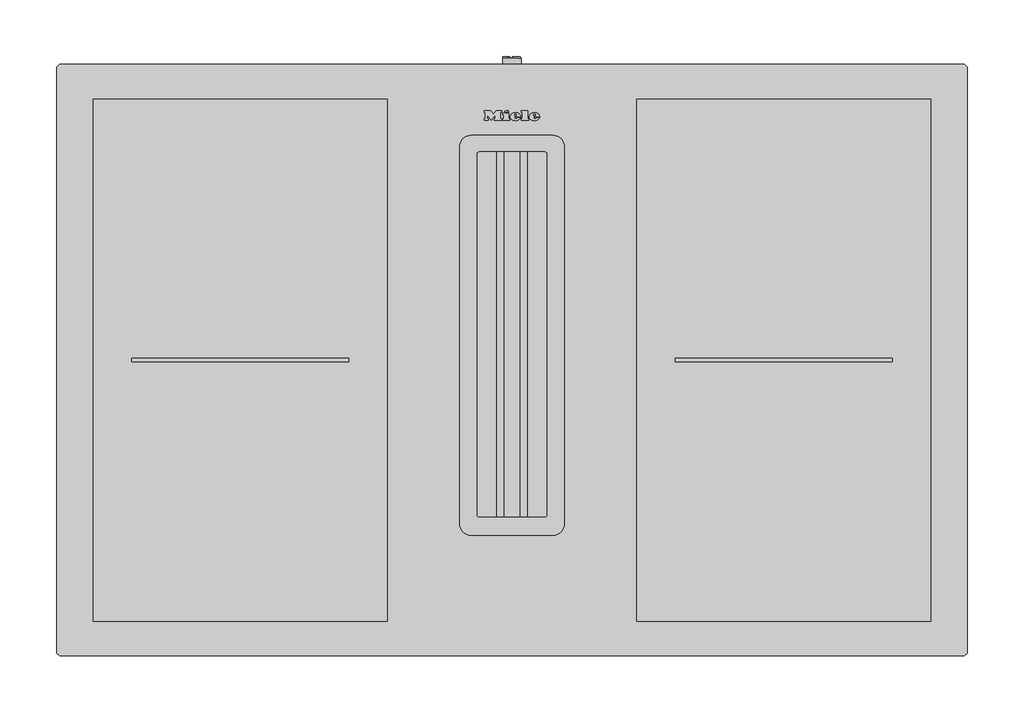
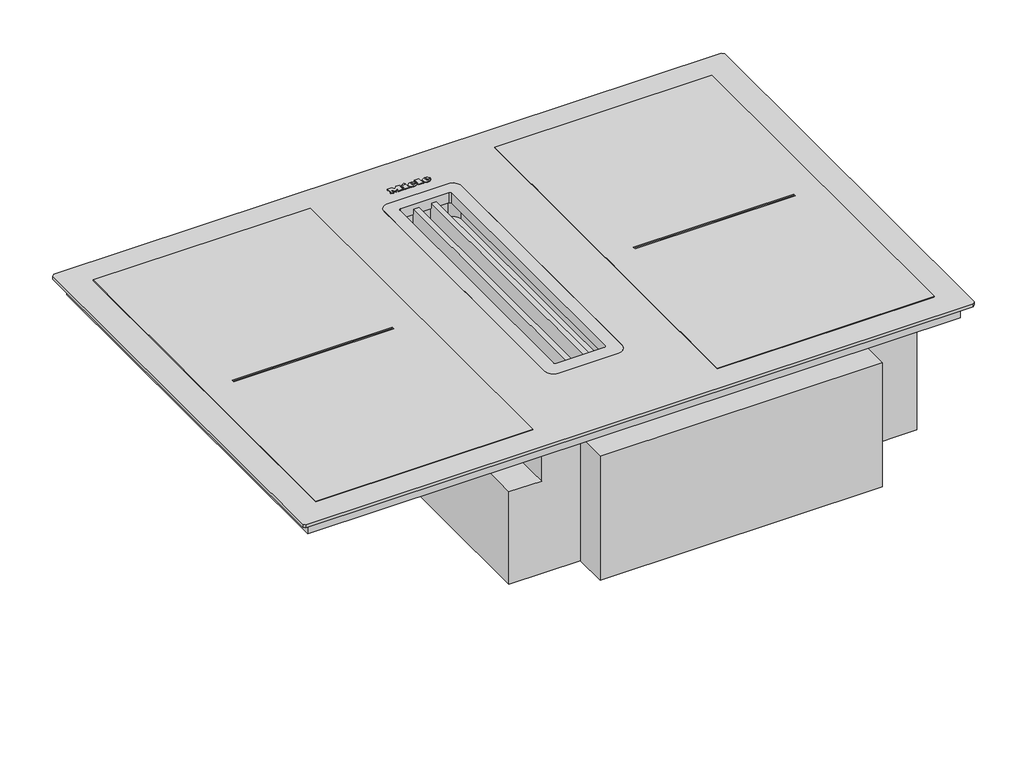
# Not in any storey: 1 proxy.
"""IFC4 building model written with IfcOpenShell, lengths in millimetres."""

import ifcopenshell
import ifcopenshell.guid

model = None  # the IFC model being written
_history = None  # IfcOwnerHistory: only IFC2X3 demands one
_inside = {}  # id of a spatial element -> (the spatial element, [elements in it])
_under = {}  # id of a project, library or spatial element -> (it, [spatial elements below it])
_declared = {}  # id of a project -> (the project, [libraries it declares])
_typed = {}  # id of a type object -> (the type object, [elements of that type])
_made_of = {}  # id of a material, layer set ... -> (it, [elements and type objects made of it])


def new_model(schema):
    """Start an empty IFC model of exactly this schema.

    Asked for "IFC4X3", IfcOpenShell would pick the latest addendum, in which some entities
    have other attributes; the version numbers below select the first issue.
    IFC2X3 requires an IfcOwnerHistory on every rooted entity: one is made here for all.
    """
    global model, _history
    if schema == "IFC4X3":
        model = ifcopenshell.file(schema_version=(4, 3, 0, 0))
    else:
        model = ifcopenshell.file(schema=schema)
    _inside.clear()
    _under.clear()
    _declared.clear()
    _typed.clear()
    _made_of.clear()
    _history = None
    if model.schema == "IFC2X3":
        org = make("IfcOrganization", Name="unknown")
        user = make(
            "IfcPersonAndOrganization",
            ThePerson=make("IfcPerson", FamilyName="unknown"),
            TheOrganization=org,
        )
        app = make(
            "IfcApplication",
            ApplicationDeveloper=org,
            Version="unknown",
            ApplicationFullName="unknown",
            ApplicationIdentifier="unknown",
        )
        _history = make(
            "IfcOwnerHistory",
            OwningUser=user,
            OwningApplication=app,
            ChangeAction="ADDED",
            CreationDate=0,
        )
    return model


def make(cls, **values):
    """One entity of the class cls with the attributes given. An attribute that is None is left unset."""
    return model.create_entity(
        cls, **{name: value for name, value in values.items() if value is not None}
    )


def rooted(cls, **values):
    """An entity with a GlobalId (a new one), such as an element, a storey or a relation."""
    return make(cls, GlobalId=ifcopenshell.guid.new(), OwnerHistory=_history, **values)


def si_unit(unit_type, name, prefix=None):
    """IfcSIUnit, for example si_unit("LENGTHUNIT", "METRE", prefix="MILLI")."""
    return make("IfcSIUnit", UnitType=unit_type, Prefix=prefix, Name=name)


def assignment(units):
    """IfcUnitAssignment: the units of a project."""
    return None if units is None else make("IfcUnitAssignment", Units=units)


def point(xyz):
    """IfcCartesianPoint."""
    return None if xyz is None else make("IfcCartesianPoint", Coordinates=xyz)


def direction(xyz):
    """IfcDirection."""
    return None if xyz is None else make("IfcDirection", DirectionRatios=xyz)


def frame(location, z_axis=None, x_axis=None):
    """IfcAxis2Placement3D, a coordinate frame: its origin and axes. An axis left out is left unset."""
    return make(
        "IfcAxis2Placement3D",
        Location=point(location),
        Axis=direction(z_axis),
        RefDirection=direction(x_axis),
    )


def frame_2d(location, x_axis=None):
    """IfcAxis2Placement2D, a coordinate frame in the plane: its origin and x axis."""
    return make(
        "IfcAxis2Placement2D", Location=point(location), RefDirection=direction(x_axis)
    )


def origin():
    """The frame at (0, 0, 0) with its axes left unset."""
    return frame((0.0, 0.0, 0.0))


def origin_with_axes():
    """The frame at (0, 0, 0) with the z axis (0, 0, 1) and the x axis (1, 0, 0) written out."""
    return frame((0.0, 0.0, 0.0), z_axis=(0.0, 0.0, 1.0), x_axis=(1.0, 0.0, 0.0))


def place(relative_to, where):
    """IfcLocalPlacement: puts the frame where relative to a parent placement (None: the world)."""
    return make(
        "IfcLocalPlacement", PlacementRelTo=relative_to, RelativePlacement=where
    )


def context(
    kind, dimensions, precision=None, world=None, true_north=None, identifier=None
):
    """IfcGeometricRepresentationContext, for example the 3D "Model" context."""
    return make(
        "IfcGeometricRepresentationContext",
        ContextIdentifier=identifier,
        ContextType=kind,
        CoordinateSpaceDimension=dimensions,
        Precision=precision,
        WorldCoordinateSystem=world,
        TrueNorth=true_north,
    )


def project(units=None, contexts=None):
    """IfcProject with its units and contexts."""
    return rooted(
        "IfcProject",
        Name="project",
        RepresentationContexts=contexts,
        UnitsInContext=assignment(units),
    )


def spatial(cls, under=None, at=None, **own):
    """A site, building, storey or space (cls), placed at a placement, below another one or the project."""
    s = rooted(cls, ObjectPlacement=at, **own)
    if under is not None:
        _under.setdefault(under.id(), (under, []))[1].append(s)
    return s


def polyline(points):
    """IfcPolyline through the points."""
    return make("IfcPolyline", Points=[point(p) for p in points])


def circle_curve(where, radius):
    """IfcCircle in the frame where."""
    return make("IfcCircle", Position=where, Radius=radius)


def ellipse_curve(where, semi_axis1, semi_axis2):
    """IfcEllipse in the frame where."""
    return make(
        "IfcEllipse", Position=where, SemiAxis1=semi_axis1, SemiAxis2=semi_axis2
    )


def trimmed(basis, trim1, trim2, sense, master):
    """IfcTrimmedCurve: the piece of a basis curve between two trims."""
    return make(
        "IfcTrimmedCurve",
        BasisCurve=basis,
        Trim1=trim1,
        Trim2=trim2,
        SenseAgreement=sense,
        MasterRepresentation=master,
    )


def segment(curve, same_sense, transition):
    """IfcCompositeCurveSegment."""
    return make(
        "IfcCompositeCurveSegment",
        Transition=transition,
        SameSense=same_sense,
        ParentCurve=curve,
    )


def composite_curve(segments, self_intersect=None):
    """IfcCompositeCurve: segments joined end to end."""
    return make("IfcCompositeCurve", Segments=segments, SelfIntersect=self_intersect)


def outline(outer, holes=None, kind="AREA"):
    """IfcArbitraryClosedProfileDef: a profile drawn as a closed curve; with holes, ...WithVoids."""
    if holes is None:
        return make("IfcArbitraryClosedProfileDef", ProfileType=kind, OuterCurve=outer)
    return make(
        "IfcArbitraryProfileDefWithVoids",
        ProfileType=kind,
        OuterCurve=outer,
        InnerCurves=holes,
    )


def extrude(swept, where, along, depth):
    """IfcExtrudedAreaSolid: the profile swept, set in the frame where, extruded along a direction by depth."""
    return make(
        "IfcExtrudedAreaSolid",
        SweptArea=swept,
        Position=where,
        ExtrudedDirection=direction(along),
        Depth=depth,
    )


def shape(context_of_items, identifier, shape_type, items):
    """IfcShapeRepresentation: the items that make up one representation, for example the "Body"."""
    return make(
        "IfcShapeRepresentation",
        ContextOfItems=context_of_items,
        RepresentationIdentifier=identifier,
        RepresentationType=shape_type,
        Items=items,
    )


def source(mapping_origin, context_of_items, identifier, shape_type, items):
    """IfcRepresentationMap: a shape defined once, which mapped items show again and again."""
    return make(
        "IfcRepresentationMap",
        MappingOrigin=mapping_origin,
        MappedRepresentation=shape(context_of_items, identifier, shape_type, items),
    )


def transform(
    local_origin,
    x_axis=None,
    y_axis=None,
    z_axis=None,
    scale=None,
    scale2=None,
    scale3=None,
    uniform=True,
):
    """IfcCartesianTransformationOperator3D, or its non-uniform kind. x_axis, y_axis, z_axis: its Axis1, 2, 3."""
    if uniform:
        return make(
            "IfcCartesianTransformationOperator3D",
            Axis1=direction(x_axis),
            Axis2=direction(y_axis),
            LocalOrigin=point(local_origin),
            Scale=scale,
            Axis3=direction(z_axis),
        )
    return make(
        "IfcCartesianTransformationOperator3DnonUniform",
        Axis1=direction(x_axis),
        Axis2=direction(y_axis),
        LocalOrigin=point(local_origin),
        Scale=scale,
        Axis3=direction(z_axis),
        Scale2=scale2,
        Scale3=scale3,
    )


def mapped(mapping_source, mapping_target):
    """IfcMappedItem: shows the shape of a source again, moved by a transform."""
    return make(
        "IfcMappedItem", MappingSource=mapping_source, MappingTarget=mapping_target
    )


def made_of(thing, what):
    """Note that an element or type object is made of a material, layer set ...; save() writes the relation."""
    if what is not None:
        _made_of.setdefault(what.id(), (what, []))[1].append(thing)
    return thing


def element(
    cls,
    number,
    at=None,
    inside=None,
    cuts=None,
    type_object=None,
    material=None,
    context=None,
    identifier="Body",
    shape_type=None,
    held_by="IfcProductDefinitionShape",
    body=None,
    shapes=None,
    **own,
):
    """One element of the class cls, such as IfcWall. Its Tag is "e" and its number.

    at: its placement. inside: the storey or other place that contains it. cuts: it is an
    opening in that element (IfcRelVoidsElement). A single representation is given by context,
    identifier, shape_type and body (its items); several are given by shapes. held_by: the class
    of the entity that holds the representations. save() writes the other relations.
    """
    e = rooted(cls, Tag="e%d" % number, ObjectPlacement=at, **own)
    if body is not None:
        shapes = [shape(context, identifier, shape_type, body)]
    if shapes is not None:
        e.Representation = make(held_by, Representations=shapes)
    if inside is not None:
        _inside.setdefault(inside.id(), (inside, []))[1].append(e)
    if cuts is not None:
        rooted(
            "IfcRelVoidsElement", RelatingBuildingElement=cuts, RelatedOpeningElement=e
        )
    if type_object is not None:
        _typed.setdefault(type_object.id(), (type_object, []))[1].append(e)
    return made_of(e, material)


def aggregate(whole, parts):
    """IfcRelAggregates: a whole, such as a stair, and the parts it consists of."""
    return rooted("IfcRelAggregates", RelatingObject=whole, RelatedObjects=parts)


def save(model, path):
    """Write the relations noted so far, then the file.

    IfcRelAggregates (storeys below a building ...), IfcRelContainedInSpatialStructure (elements
    in a storey), IfcRelDefinesByType, IfcRelAssociatesMaterial and IfcRelDeclares: one each for
    every whole, place, type object, material and project.
    """
    for whole, parts in _under.values():
        aggregate(whole, parts)
    for where, things in _inside.values():
        rooted(
            "IfcRelContainedInSpatialStructure",
            RelatedElements=things,
            RelatingStructure=where,
        )
    for kind, things in _typed.values():
        rooted("IfcRelDefinesByType", RelatedObjects=things, RelatingType=kind)
    for what, things in _made_of.values():
        rooted("IfcRelAssociatesMaterial", RelatedObjects=things, RelatingMaterial=what)
    for by, libraries in _declared.values():
        rooted("IfcRelDeclares", RelatingContext=by, RelatedDefinitions=libraries)
    model.write(path)


def plane_surface(at):
    """IfcPlane: the flat surface through the origin of the frame at, square to its z axis."""
    return make("IfcPlane", Position=at)


def cylinder_surface(at, radius):
    """IfcCylindricalSurface: all points at the distance radius from the z axis of the frame at."""
    return make("IfcCylindricalSurface", Position=at, Radius=radius)


def revolved_surface(curve, axis_point, axis_direction):
    """IfcSurfaceOfRevolution: the curve turned about the line through axis_point along axis_direction."""
    return make(
        "IfcSurfaceOfRevolution",
        SweptCurve=make("IfcArbitraryOpenProfileDef", ProfileType="CURVE", Curve=curve),
        AxisPosition=make("IfcAxis1Placement", Location=point(axis_point), Axis=direction(axis_direction)),
    )


def extruded_surface(curve, direction_of_extrusion, depth):
    """IfcSurfaceOfLinearExtrusion: the curve pushed along a direction by depth."""
    return make(
        "IfcSurfaceOfLinearExtrusion",
        SweptCurve=make("IfcArbitraryOpenProfileDef", ProfileType="CURVE", Curve=curve),
        ExtrudedDirection=direction(direction_of_extrusion),
        Depth=depth,
    )


def advanced_brep(points, edges, surfaces, faces):
    """IfcAdvancedBrep: a solid bounded by faces that lie on surfaces and meet in shared edges.

    An edge is (start, end): straight between two places in points (the first is 0);
    or (start, end, curve); or (start, end, curve, False) where it runs against its curve.
    A face is (place in surfaces, loops), or (place, loops, False) where it looks against
    its surface's normal. A loop lists edges by number (the first is 1), with a minus sign
    where the edge is run from its end to its start. The first loop is the outer one.
    """
    corners = [point(p) for p in points]
    vertices = [make("IfcVertexPoint", VertexGeometry=c) for c in corners]
    made = []
    for start, end, *more in edges:
        made.append(
            make(
                "IfcEdgeCurve",
                EdgeStart=vertices[start],
                EdgeEnd=vertices[end],
                EdgeGeometry=more[0] if more else make("IfcPolyline", Points=[corners[start], corners[end]]),
                SameSense=more[1] if len(more) > 1 else True,
            )
        )
    hull = []
    for where, loops, *sense in faces:
        bounds = []
        for j, loop in enumerate(loops):
            ring = [make("IfcOrientedEdge", EdgeElement=made[abs(k) - 1], Orientation=k > 0) for k in loop]
            bounds.append(
                make(
                    "IfcFaceOuterBound" if j == 0 else "IfcFaceBound",
                    Bound=make("IfcEdgeLoop", EdgeList=ring),
                    Orientation=True,
                )
            )
        hull.append(make("IfcAdvancedFace", Bounds=bounds, FaceSurface=surfaces[where], SameSense=sense[0] if sense else True))
    return make("IfcAdvancedBrep", Outer=make("IfcClosedShell", CfsFaces=hull))


def specialty_equipment_d1ee9a21(model_context):
    return source(origin(), model_context, "Body", "SolidModel", [
        advanced_brep(
        [(19.088016, 472.896, 5.0), (19.088016, 473.704, 5.0), (24.440016, 473.704, 5.0), (15.128016, 473.704, 5.0), (17.328016, 471.0, 5.0), (24.304016, 472.896, 5.0), (21.888016, 472.896, 5.0), (19.984016, 472.0, 5.0), (19.088016, 474.728, 5.0), (19.088016, 475.6, 5.0), (20.456016, 475.6, 5.0), (20.456016, 474.728, 5.0), (19.088016, 472.896, 4.0), (19.984016, 472.0, 4.0), (21.888016, 472.896, 4.0), (24.304016, 472.896, 4.0), (17.328016, 471.0, 4.0), (15.128016, 473.704, 4.0), (24.440016, 473.704, 4.0), (19.088016, 473.704, 4.0), (19.088016, 474.728, 4.0), (20.456016, 474.728, 4.0), (20.456016, 475.6, 4.0), (19.088016, 475.6, 4.0)],
        [
            (0, 1),
            (1, 2),
            (2, 3, ellipse_curve(frame((19.784016, 473.704, 5.0), z_axis=(0.0, 0.0, 1.0), x_axis=(-1.0, 0.0, 0.0)), 4.656, 3.848)),
            (3, 4, circle_curve(frame((18.2240596, 473.976, 5.0), z_axis=(0.0, 0.0, 1.0), x_axis=(0.0, -1.0, 0.0)), 3.1079688)),
            (4, 5, circle_curve(frame((19.6908096, 476.088, 5.0), z_axis=(0.0, 0.0, 1.0), x_axis=(0.0, -1.0, 0.0)), 5.6098607)),
            (5, 6),
            (6, 7, circle_curve(frame((20.3750748, 473.64, 5.0), z_axis=(0.0, 0.0, -1.0), x_axis=(0.0, -1.0, 0.0)), 1.6859795)),
            (7, 0, circle_curve(frame((19.984016, 472.896, 5.0), z_axis=(0.0, 0.0, -1.0), x_axis=(0.0, -1.0, 0.0)), 0.896)),
            (8, 9),
            (9, 10, circle_curve(frame((19.772016, 475.6, 5.0), z_axis=(0.0, 0.0, -1.0), x_axis=(0.0, -1.0, 0.0)), 0.684)),
            (10, 11),
            (11, 8),
            (12, 13, circle_curve(frame((19.984016, 472.896, 4.0), z_axis=(0.0, 0.0, 1.0), x_axis=(0.0, -1.0, 0.0)), 0.896)),
            (13, 14, circle_curve(frame((20.3750748, 473.64, 4.0), z_axis=(0.0, 0.0, 1.0), x_axis=(0.0, -1.0, 0.0)), 1.6859795)),
            (14, 15),
            (15, 16, circle_curve(frame((19.6908096, 476.088, 4.0), z_axis=(0.0, 0.0, -1.0), x_axis=(0.0, -1.0, 0.0)), 5.6098607)),
            (16, 17, circle_curve(frame((18.2240596, 473.976, 4.0), z_axis=(0.0, 0.0, -1.0), x_axis=(0.0, -1.0, 0.0)), 3.1079688)),
            (17, 18, ellipse_curve(frame((19.784016, 473.704, 4.0), z_axis=(0.0, 0.0, -1.0), x_axis=(-1.0, 0.0, 0.0)), 4.656, 3.848)),
            (18, 19),
            (19, 12),
            (20, 21),
            (21, 22),
            (22, 23, circle_curve(frame((19.772016, 475.6, 4.0), z_axis=(0.0, 0.0, 1.0), x_axis=(0.0, -1.0, 0.0)), 0.684)),
            (23, 20),
            (0, 12),
            (19, 1),
            (18, 2),
            (5, 15),
            (14, 6),
            (17, 3),
            (13, 7),
            (16, 4),
            (8, 20),
            (23, 9),
            (22, 10),
            (21, 11),
        ],
        [
            plane_surface(frame((19.088016, 473.704, 5.0), z_axis=(0.0, 0.0, 1.0), x_axis=(0.0, 1.0, 0.0))),
            plane_surface(frame((19.088016, 473.704, 4.0), z_axis=(0.0, 0.0, -1.0), x_axis=(0.0, -1.0, 0.0))),
            plane_surface(frame((19.088016, 472.896, 5.0), z_axis=(1.0, 0.0, 0.0), x_axis=(0.0, 0.0, -1.0))),
            plane_surface(frame((19.088016, 473.704, 5.0), z_axis=(0.0, -1.0, 0.0), x_axis=(0.0, 0.0, -1.0))),
            plane_surface(frame((24.304016, 472.896, 5.0), z_axis=(0.0, 1.0, 0.0), x_axis=(0.0, 0.0, -1.0))),
            extruded_surface(trimmed(ellipse_curve(frame((19.784016, 473.704, 3.0), z_axis=(0.0, 0.0, 1.0), x_axis=(-1.0, 0.0, 0.0)), 4.656, 3.848), [point((24.440016, 473.704, 3.0))], [point((15.128016, 473.704, 3.0))], True, "CARTESIAN"), (0.0, 0.0, 1.0), 1.0),
            revolved_surface(polyline([(20.3750748, 471.9540205, 4.0), (20.3750748, 471.9540205, 5.0)]), (20.3750748, 473.64, 4.0), (0.0, 0.0, -1.0)),
            revolved_surface(polyline([(19.984016, 472.0, 4.0), (19.984016, 472.0, 5.0)]), (19.984016, 472.896, 4.0), (0.0, 0.0, -1.0)),
            cylinder_surface(frame((18.2240596, 473.976, 4.0), z_axis=(0.0, 0.0, 1.0), x_axis=(0.0, -1.0, 0.0)), 3.1079688),
            cylinder_surface(frame((19.6908096, 476.088, 4.0), z_axis=(0.0, 0.0, 1.0), x_axis=(0.0, -1.0, 0.0)), 5.6098607),
            plane_surface(frame((19.088016, 474.728, 5.0), z_axis=(1.0, 0.0, 0.0), x_axis=(0.0, 0.0, -1.0))),
            revolved_surface(polyline([(19.772016, 474.916, 4.0), (19.772016, 474.916, 5.0)]), (19.772016, 475.6, 4.0), (0.0, 0.0, -1.0)),
            plane_surface(frame((20.456016, 475.6, 5.0), z_axis=(-1.0, 0.0, 0.0), x_axis=(0.0, 0.0, -1.0))),
            plane_surface(frame((20.456016, 474.728, 5.0), z_axis=(0.0, 1.0, 0.0), x_axis=(0.0, 0.0, -1.0))),
        ],
        [
            (0, [[1, 2, 3, 4, 5, 6, 7, 8], [9, 10, 11, 12]]),
            (1, [[13, 14, 15, 16, 17, 18, 19, 20], [21, 22, 23, 24]]),
            (2, [[-1, 25, -20, 26]]),
            (3, [[-2, -26, -19, 27]]),
            (4, [[-6, 28, -15, 29]]),
            (5, [[-3, -27, -18, 30]]),
            (6, [[-7, -29, -14, 31]]),
            (7, [[-8, -31, -13, -25]]),
            (8, [[-4, -30, -17, 32]]),
            (9, [[-5, -32, -16, -28]]),
            (10, [[-9, 33, -24, 34]]),
            (11, [[-10, -34, -23, 35]]),
            (12, [[-11, -35, -22, 36]]),
            (13, [[-12, -36, -21, -33]]),
        ],
    ),
        advanced_brep(
        [(2.392016, 472.896, 5.0), (2.392016, 473.704, 5.0), (7.744016, 473.704, 5.0), (-1.567984, 473.704, 5.0), (0.632016, 471.0, 5.0), (7.608016, 472.896, 5.0), (5.192016, 472.896, 5.0), (3.288016, 472.0, 5.0), (2.392016, 474.728, 5.0), (2.392016, 475.6, 5.0), (3.760016, 475.6, 5.0), (3.760016, 474.728, 5.0), (2.392016, 472.896, 4.0), (3.288016, 472.0, 4.0), (5.192016, 472.896, 4.0), (7.608016, 472.896, 4.0), (0.632016, 471.0, 4.0), (-1.567984, 473.704, 4.0), (7.744016, 473.704, 4.0), (2.392016, 473.704, 4.0), (2.392016, 474.728, 4.0), (3.760016, 474.728, 4.0), (3.760016, 475.6, 4.0), (2.392016, 475.6, 4.0)],
        [
            (0, 1),
            (1, 2),
            (2, 3, ellipse_curve(frame((3.088016, 473.704, 5.0), z_axis=(0.0, 0.0, 1.0), x_axis=(-1.0, 0.0, 0.0)), 4.656, 3.848)),
            (3, 4, circle_curve(frame((1.5280596, 473.976, 5.0), z_axis=(0.0, 0.0, 1.0), x_axis=(0.0, -1.0, 0.0)), 3.1079688)),
            (4, 5, circle_curve(frame((2.9948096, 476.088, 5.0), z_axis=(0.0, 0.0, 1.0), x_axis=(0.0, -1.0, 0.0)), 5.6098607)),
            (5, 6),
            (6, 7, circle_curve(frame((3.6790748, 473.64, 5.0), z_axis=(0.0, 0.0, -1.0), x_axis=(0.0, -1.0, 0.0)), 1.6859795)),
            (7, 0, circle_curve(frame((3.288016, 472.896, 5.0), z_axis=(0.0, 0.0, -1.0), x_axis=(0.0, -1.0, 0.0)), 0.896)),
            (8, 9),
            (9, 10, circle_curve(frame((3.076016, 475.6, 5.0), z_axis=(0.0, 0.0, -1.0), x_axis=(0.0, -1.0, 0.0)), 0.684)),
            (10, 11),
            (11, 8),
            (12, 13, circle_curve(frame((3.288016, 472.896, 4.0), z_axis=(0.0, 0.0, 1.0), x_axis=(0.0, -1.0, 0.0)), 0.896)),
            (13, 14, circle_curve(frame((3.6790748, 473.64, 4.0), z_axis=(0.0, 0.0, 1.0), x_axis=(0.0, -1.0, 0.0)), 1.6859795)),
            (14, 15),
            (15, 16, circle_curve(frame((2.9948096, 476.088, 4.0), z_axis=(0.0, 0.0, -1.0), x_axis=(0.0, -1.0, 0.0)), 5.6098607)),
            (16, 17, circle_curve(frame((1.5280596, 473.976, 4.0), z_axis=(0.0, 0.0, -1.0), x_axis=(0.0, -1.0, 0.0)), 3.1079688)),
            (17, 18, ellipse_curve(frame((3.088016, 473.704, 4.0), z_axis=(0.0, 0.0, -1.0), x_axis=(-1.0, 0.0, 0.0)), 4.656, 3.848)),
            (18, 19),
            (19, 12),
            (20, 21),
            (21, 22),
            (22, 23, circle_curve(frame((3.076016, 475.6, 4.0), z_axis=(0.0, 0.0, 1.0), x_axis=(0.0, -1.0, 0.0)), 0.684)),
            (23, 20),
            (0, 12),
            (19, 1),
            (18, 2),
            (5, 15),
            (14, 6),
            (17, 3),
            (13, 7),
            (16, 4),
            (8, 20),
            (23, 9),
            (22, 10),
            (21, 11),
        ],
        [
            plane_surface(frame((2.392016, 473.704, 5.0), z_axis=(0.0, 0.0, 1.0), x_axis=(0.0, 1.0, 0.0))),
            plane_surface(frame((2.392016, 473.704, 4.0), z_axis=(0.0, 0.0, -1.0), x_axis=(0.0, -1.0, 0.0))),
            plane_surface(frame((2.392016, 472.896, 5.0), z_axis=(1.0, 0.0, 0.0), x_axis=(0.0, 0.0, -1.0))),
            plane_surface(frame((2.392016, 473.704, 5.0), z_axis=(0.0, -1.0, 0.0), x_axis=(0.0, 0.0, -1.0))),
            plane_surface(frame((7.608016, 472.896, 5.0), z_axis=(0.0, 1.0, 0.0), x_axis=(0.0, 0.0, -1.0))),
            extruded_surface(trimmed(ellipse_curve(frame((3.088016, 473.704, 3.0), z_axis=(0.0, 0.0, 1.0), x_axis=(-1.0, 0.0, 0.0)), 4.656, 3.848), [point((7.744016, 473.704, 3.0))], [point((-1.567984, 473.704, 3.0))], True, "CARTESIAN"), (0.0, 0.0, 1.0), 1.0),
            revolved_surface(polyline([(3.6790748, 471.9540205, 4.0), (3.6790748, 471.9540205, 5.0)]), (3.6790748, 473.64, 4.0), (0.0, 0.0, -1.0)),
            revolved_surface(polyline([(3.288016, 472.0, 4.0), (3.288016, 472.0, 5.0)]), (3.288016, 472.896, 4.0), (0.0, 0.0, -1.0)),
            cylinder_surface(frame((1.5280596, 473.976, 4.0), z_axis=(0.0, 0.0, 1.0), x_axis=(0.0, -1.0, 0.0)), 3.1079688),
            cylinder_surface(frame((2.9948096, 476.088, 4.0), z_axis=(0.0, 0.0, 1.0), x_axis=(0.0, -1.0, 0.0)), 5.6098607),
            plane_surface(frame((2.392016, 474.728, 5.0), z_axis=(1.0, 0.0, 0.0), x_axis=(0.0, 0.0, -1.0))),
            revolved_surface(polyline([(3.076016, 474.916, 4.0), (3.076016, 474.916, 5.0)]), (3.076016, 475.6, 4.0), (0.0, 0.0, -1.0)),
            plane_surface(frame((3.760016, 475.6, 5.0), z_axis=(-1.0, 0.0, 0.0), x_axis=(0.0, 0.0, -1.0))),
            plane_surface(frame((3.760016, 474.728, 5.0), z_axis=(0.0, 1.0, 0.0), x_axis=(0.0, 0.0, -1.0))),
        ],
        [
            (0, [[1, 2, 3, 4, 5, 6, 7, 8], [9, 10, 11, 12]]),
            (1, [[13, 14, 15, 16, 17, 18, 19, 20], [21, 22, 23, 24]]),
            (2, [[-1, 25, -20, 26]]),
            (3, [[-2, -26, -19, 27]]),
            (4, [[-6, 28, -15, 29]]),
            (5, [[-3, -27, -18, 30]]),
            (6, [[-7, -29, -14, 31]]),
            (7, [[-8, -31, -13, -25]]),
            (8, [[-4, -30, -17, 32]]),
            (9, [[-5, -32, -16, -28]]),
            (10, [[-9, 33, -24, 34]]),
            (11, [[-10, -34, -23, 35]]),
            (12, [[-11, -35, -22, 36]]),
            (13, [[-12, -36, -21, -33]]),
        ],
    ),
        extrude(outline(polyline([(-6.351984, 478.528), (-3.631984, 479.792), (-3.031984, 478.496), (-5.743984, 477.232), (-6.351984, 478.528)])), frame((0.0, 0.0, 4.0), z_axis=(0.0, 0.0, 1.0), x_axis=(1.0, 0.0, 0.0)), (0.0, 0.0, 1.0), 1.0),
        extrude(outline(polyline([(-8.327984, 477.056), (-2.943984, 477.056), (-2.943984, 472.344), (-2.015984, 472.344), (-2.015984, 471.0), (-8.327984, 471.0), (-8.327984, 472.344), (-7.375984, 472.344), (-7.375984, 475.624), (-8.327984, 475.624), (-8.327984, 477.056)])), frame((0.0, 0.0, 4.0), z_axis=(0.0, 0.0, 1.0), x_axis=(1.0, 0.0, 0.0)), (0.0, 0.0, 1.0), 1.0),
        extrude(outline(polyline([(8.192016, 477.696), (8.192016, 479.0), (13.696016, 479.0), (13.696016, 472.344), (14.680016, 472.344), (14.680016, 471.0), (8.192016, 471.0), (8.192016, 472.344), (9.152016, 472.344), (9.152016, 477.696), (8.192016, 477.696)])), frame((0.0, 0.0, 4.0), z_axis=(0.0, 0.0, 1.0), x_axis=(1.0, 0.0, 0.0)), (0.0, 0.0, 1.0), 1.0),
        extrude(outline(polyline([(-24.271984, 477.696), (-24.271984, 479.0), (-18.695984, 479.0), (-16.351984, 476.0), (-14.015984, 479.0), (-9.143984, 479.0), (-9.143984, 477.696), (-10.159984, 477.696), (-10.159984, 472.344), (-9.143984, 472.344), (-9.143984, 471.0), (-15.527984, 471.0), (-15.527984, 472.344), (-14.543984, 472.344), (-14.543984, 475.8152223), (-18.135984, 471.0), (-21.711984, 475.7471247), (-21.711984, 472.344), (-20.751984, 472.344), (-20.751984, 471.0), (-24.271984, 471.0), (-24.271984, 472.344), (-23.303984, 472.344), (-23.303984, 477.696), (-24.271984, 477.696)])), frame((0.0, 0.0, 4.0), z_axis=(0.0, 0.0, 1.0), x_axis=(1.0, 0.0, 0.0)), (0.0, 0.0, 1.0), 1.0),
        extrude(outline(polyline([(-109.7799963, 489.4478004), (-109.7799963, 30.4999887), (-368.2201181, 30.4999887), (-368.2201181, 489.4478004), (-109.7799963, 489.4478004)]), holes=[polyline([(-143.6799963, 261.5278004), (-334.3201181, 261.5278004), (-334.3201181, 258.3678004), (-143.6799963, 258.3678004), (-143.6799963, 261.5278004)])]), frame((0.0, 0.0, 4.0), z_axis=(0.0, 0.0, 1.0), x_axis=(1.0, 0.0, 0.0)), (0.0, 0.0, 1.0), 1.0),
        extrude(outline(polyline([(109.7799963, 489.4478004), (368.2201181, 489.4478004), (368.2201181, 30.4999887), (109.7799963, 30.4999887), (109.7799963, 489.4478004)]), holes=[polyline([(143.6799963, 261.5278004), (143.6799963, 258.3678004), (334.3201181, 258.3678004), (334.3201181, 261.5278004), (143.6799963, 261.5278004)])]), frame((0.0, 0.0, 4.0), z_axis=(0.0, 0.0, 1.0), x_axis=(1.0, 0.0, 0.0)), (0.0, 0.0, 1.0), 1.0),
        extrude(outline(composite_curve([segment(polyline([(-45.9999987, 115.9999992), (-45.9999987, 447.4999992)]), True, "CONTINUOUS"), segment(trimmed(circle_curve(frame_2d((-35.9999987, 447.4999992)), 10.0), [point((-45.9999987, 447.4999992))], [point((-35.9999987, 457.4999992))], False, "CARTESIAN"), True, "CONTINUOUS"), segment(polyline([(-35.9999987, 457.4999992), (35.9999987, 457.4999992)]), True, "CONTINUOUS"), segment(trimmed(circle_curve(frame_2d((35.9999987, 447.4999992)), 10.0), [point((35.9999987, 457.4999992))], [point((45.9999987, 447.4999992))], False, "CARTESIAN"), True, "CONTINUOUS"), segment(polyline([(45.9999987, 447.4999992), (45.9999987, 115.9999992)]), True, "CONTINUOUS"), segment(trimmed(circle_curve(frame_2d((35.9999987, 115.9999992)), 10.0), [point((45.9999987, 115.9999992))], [point((35.9999987, 105.9999992))], False, "CARTESIAN"), True, "CONTINUOUS"), segment(polyline([(35.9999987, 105.9999992), (-35.9999987, 105.9999992)]), True, "CONTINUOUS"), segment(trimmed(circle_curve(frame_2d((-35.9999987, 115.9999992)), 10.0), [point((-35.9999987, 105.9999992))], [point((-45.9999987, 115.9999992))], False, "CARTESIAN"), True, "CONTINUOUS")], self_intersect=False), holes=[composite_curve([segment(trimmed(circle_curve(frame_2d((-28.688139, 124.1576538)), 2.0), [point((-30.688139, 124.1576538))], [point((-28.688139, 122.1576538))], True, "CARTESIAN"), True, "CONTINUOUS"), segment(polyline([(-28.688139, 122.1576538), (28.688139, 122.1576538)]), True, "CONTINUOUS"), segment(trimmed(circle_curve(frame_2d((28.688139, 124.1576538)), 2.0), [point((28.688139, 122.1576538))], [point((30.688139, 124.1576538))], True, "CARTESIAN"), True, "CONTINUOUS"), segment(polyline([(30.688139, 124.1576538), (30.688139, 440.9186707)]), True, "CONTINUOUS"), segment(trimmed(circle_curve(frame_2d((28.688139, 440.9186707)), 2.0), [point((30.688139, 440.9186707))], [point((28.688139, 442.9186707))], True, "CARTESIAN"), True, "CONTINUOUS"), segment(polyline([(28.688139, 442.9186707), (-28.688139, 442.9186707)]), True, "CONTINUOUS"), segment(trimmed(circle_curve(frame_2d((-28.688139, 440.9186707)), 2.0), [point((-28.688139, 442.9186707))], [point((-30.688139, 440.9186707))], True, "CARTESIAN"), True, "CONTINUOUS"), segment(polyline([(-30.688139, 440.9186707), (-30.688139, 124.1576538)]), True, "CONTINUOUS")], self_intersect=False)]), frame((0.0, 0.0, -8.5215403), z_axis=(0.0, 0.0, 1.0), x_axis=(1.0, 0.0, 0.0)), (0.0, 0.0, 1.0), 12.5215403),
        extrude(outline(polyline([(-343.1216701, 96.3863349), (-343.1216701, 495.0), (-75.402586, 495.0), (-75.402586, 96.3863349), (-343.1216701, 96.3863349)])), frame((0.0, 0.0, -46.5), z_axis=(0.0, 0.0, 1.0), x_axis=(1.0, 0.0, 0.0)), (0.0, 0.0, 1.0), 28.6958097),
        extrude(outline(polyline([(336.1107845, 495.0), (336.1107845, 96.3863349), (104.0, 96.3863349), (104.0, 495.0), (336.1107845, 495.0)])), frame((0.0, 0.0, -46.5), z_axis=(0.0, 0.0, 1.0), x_axis=(1.0, 0.0, 0.0)), (0.0, 0.0, 1.0), 28.6958097),
        extrude(outline(polyline([(388.5, 508.4999986), (388.5, 11.4999971), (-388.5, 11.4999971), (-388.5, 508.4999986), (388.5, 508.4999986)]), holes=[composite_curve([segment(polyline([(45.9999987, 115.9999979), (45.9999987, 447.4999992)]), True, "CONTINUOUS"), segment(trimmed(circle_curve(frame_2d((35.9999987, 447.4999992)), 10.0), [point((45.9999987, 447.4999992))], [point((35.9999987, 457.4999992))], True, "CARTESIAN"), True, "CONTINUOUS"), segment(polyline([(35.9999987, 457.4999992), (-35.9999987, 457.4999992)]), True, "CONTINUOUS"), segment(trimmed(circle_curve(frame_2d((-35.9999987, 447.4999992)), 10.0), [point((-35.9999987, 457.4999992))], [point((-45.9999987, 447.4999992))], True, "CARTESIAN"), True, "CONTINUOUS"), segment(polyline([(-45.9999987, 447.4999992), (-45.9999987, 115.9999979)]), True, "CONTINUOUS"), segment(trimmed(circle_curve(frame_2d((-36.0, 115.9999979)), 9.9999987), [point((-45.9999987, 115.9999979))], [point((-36.0, 105.9999992))], True, "CARTESIAN"), True, "CONTINUOUS"), segment(polyline([(-36.0, 105.9999992), (36.0, 105.9999992)]), True, "CONTINUOUS"), segment(trimmed(circle_curve(frame_2d((36.0, 115.9999979)), 9.9999987), [point((36.0, 105.9999992))], [point((45.9999987, 115.9999979))], True, "CARTESIAN"), True, "CONTINUOUS")], self_intersect=False)]), frame((0.0, 0.0, -17.8041903), z_axis=(0.0, 0.0, 1.0), x_axis=(1.0, 0.0, 0.0)), (0.0, 0.0, 1.0), 17.8041903),
        extrude(outline(polyline([(397.5, 520.0), (400.0, 517.5), (400.0, 2.5), (397.5, 0.0), (-397.5, 0.0), (-400.0, 2.5), (-400.0, 517.5), (-397.5, 520.0), (397.5, 520.0)]), holes=[composite_curve([segment(polyline([(35.9999987, 457.4999992), (-35.9999987, 457.4999992)]), True, "CONTINUOUS"), segment(trimmed(circle_curve(frame_2d((-35.9999987, 447.4999992)), 10.0), [point((-35.9999987, 457.4999992))], [point((-45.9999987, 447.4999992))], True, "CARTESIAN"), True, "CONTINUOUS"), segment(polyline([(-45.9999987, 447.4999992), (-45.9999987, 115.9999979)]), True, "CONTINUOUS"), segment(trimmed(circle_curve(frame_2d((-36.0, 115.9999979)), 9.9999987), [point((-45.9999987, 115.9999979))], [point((-36.0, 105.9999992))], True, "CARTESIAN"), True, "CONTINUOUS"), segment(polyline([(-36.0, 105.9999992), (36.0, 105.9999992)]), True, "CONTINUOUS"), segment(trimmed(circle_curve(frame_2d((36.0, 115.9999979)), 9.9999987), [point((36.0, 105.9999992))], [point((45.9999987, 115.9999979))], True, "CARTESIAN"), True, "CONTINUOUS"), segment(polyline([(45.9999987, 115.9999979), (45.9999987, 447.4999992)]), True, "CONTINUOUS"), segment(trimmed(circle_curve(frame_2d((35.9999987, 447.4999992)), 10.0), [point((45.9999987, 447.4999992))], [point((35.9999987, 457.4999992))], True, "CARTESIAN"), True, "CONTINUOUS")], self_intersect=False)]), origin_with_axes(), (0.0, 0.0, 1.0), 4.0),
        extrude(outline(composite_curve([segment(trimmed(circle_curve(frame_2d((-148.0, 170.0)), 78.9393921), [point((-148.0, 91.0606079))], [point((-148.0, 248.9393921))], False, "CARTESIAN"), True, "CONTINUOUS"), segment(trimmed(circle_curve(frame_2d((-148.0, 170.0)), 78.9393921), [point((-148.0, 248.9393921))], [point((-148.0, 91.0606079))], False, "CARTESIAN"), True, "CONTINUOUS")], self_intersect=False), holes=[composite_curve([segment(trimmed(circle_curve(frame_2d((-148.0, 170.0)), 77.9393921), [point((-148.0, 92.0606079))], [point((-148.0, 247.9393921))], True, "CARTESIAN"), True, "CONTINUOUS"), segment(trimmed(circle_curve(frame_2d((-148.0, 170.0)), 77.9393921), [point((-148.0, 247.9393921))], [point((-148.0, 92.0606079))], True, "CARTESIAN"), True, "CONTINUOUS")], self_intersect=False)]), frame((0.0, 426.3304607, 0.0), z_axis=(0.0, 1.0, 0.0), x_axis=(0.0, 0.0, 1.0)), (0.0, 0.0, 1.0), 17.9123918),
        extrude(outline(polyline([(-13.6048155, 120.1989746), (-13.6048155, 443.7301863), (-7.3951845, 443.7301863), (-7.3951845, 120.1989746), (-13.6048155, 120.1989746)])), frame((0.0, 0.0, -26.3132825), z_axis=(0.0, 0.0, 1.0), x_axis=(1.0, 0.0, 0.0)), (0.0, 0.0, 1.0), 24.7104098),
        extrude(outline(polyline([(13.6048155, 120.1989746), (7.3951845, 120.1989746), (7.3951845, 443.7301863), (13.6048155, 443.7301863), (13.6048155, 120.1989746)])), frame((0.0, 0.0, -26.3132825), z_axis=(0.0, 0.0, 1.0), x_axis=(1.0, 0.0, 0.0)), (0.0, 0.0, 1.0), 24.7104098),
        advanced_brep(
        [(53.6506051, 96.5541828, -54.0), (52.4705494, 96.5541828, -54.0), (52.4705494, 96.5541828, -17.8041903), (-52.4705494, 96.5541828, -17.8041903), (-52.4705494, 96.5541828, -54.0), (-60.8014535, 96.5541828, -54.0), (-60.8014535, 96.5541828, -117.5), (-100.1207428, 96.5541828, -117.5), (-100.1207428, 96.5541828, -234.0), (-15.0, 96.5541828, -234.0), (-15.0, 96.5541828, -77.5), (53.6506051, 96.5541828, -77.5), (-100.1207428, 495.5, -234.0), (-100.1207428, 495.5, -117.5), (-60.8014535, 495.5, -117.5), (-60.8014535, 495.5, -54.0), (-52.4705494, 495.5, -54.0), (-52.4705494, 495.5, -17.8041903), (52.4705494, 495.5, -17.8041903), (52.4705494, 495.5, -54.0), (53.6506051, 495.5, -54.0), (53.6506051, 495.5, -234.0), (53.6506051, 101.0, -77.5), (53.6506051, 101.0, -56.9972547), (53.6506051, 426.3304607, -56.9972547), (53.6506051, 426.3304607, -234.0), (45.9999987, 447.4999992, -17.8041903), (45.9999987, 115.9999979, -17.8041903), (36.0, 105.9999992, -17.8041903), (-36.0, 105.9999992, -17.8041903), (-45.9999987, 115.9999979, -17.8041903), (-45.9999987, 447.4999992, -17.8041903), (-35.9999987, 457.4999992, -17.8041903), (35.9999987, 457.4999992, -17.8041903), (388.5, 101.0, -56.9972547), (321.1107845, 101.0, -77.5), (321.1107845, 101.0, -213.2731462), (388.5, 101.0, -213.2731462), (388.5, 426.3304607, -56.9972547), (388.5, 426.3304607, -213.2731462), (342.3970703, 426.3304607, -213.2731462), (342.3970703, 426.3304607, -234.0), (342.3970703, 388.6357055, -234.0), (380.8010657, 352.3414513, -234.0), (380.8010657, 214.7386902, -234.0), (267.9814513, 109.112153, -234.0), (321.1107845, 109.112153, -234.0), (321.1107845, 55.7496808, -234.0), (-15.0, 55.7496808, -234.0), (380.8010657, 214.7386902, -213.2731462), (380.8010657, 352.3414513, -213.2731462), (342.3970703, 388.6357055, -213.2731462), (321.1107845, 109.112153, -213.2731462), (267.9814513, 109.112153, -213.2731462), (45.9999987, 115.9999979, -38.2608409), (45.9999987, 447.4999992, -38.2608409), (35.9999987, 457.4999992, -38.2608409), (-35.9999987, 457.4999992, -38.2608409), (-45.9999987, 447.4999992, -38.2608409), (-45.9999987, 115.9999979, -38.2608409), (-36.0, 105.9999992, -38.2608409), (36.0, 105.9999992, -38.2608409), (-15.0, 55.7496808, -77.5), (321.1107845, 55.7496808, -77.5)],
        [
            (0, 1),
            (1, 2),
            (2, 3),
            (3, 4),
            (4, 5),
            (5, 6),
            (6, 7),
            (7, 8),
            (8, 9),
            (9, 10),
            (10, 11),
            (11, 0),
            (12, 13),
            (13, 14),
            (14, 15),
            (15, 16),
            (16, 17),
            (17, 18),
            (18, 19),
            (19, 20),
            (20, 21),
            (21, 12),
            (20, 0),
            (11, 22),
            (22, 23),
            (23, 24),
            (24, 25),
            (25, 21),
            (19, 1),
            (18, 2),
            (17, 3),
            (26, 27),
            (27, 28, circle_curve(frame((36.0, 115.9999979, -17.8041903), z_axis=(0.0, 0.0, -1.0), x_axis=(1.0, 0.0, 0.0)), 9.9999987)),
            (28, 29),
            (29, 30, circle_curve(frame((-36.0, 115.9999979, -17.8041903), z_axis=(0.0, 0.0, -1.0), x_axis=(1.0, 0.0, 0.0)), 9.9999987)),
            (30, 31),
            (31, 32, circle_curve(frame((-35.9999987, 447.4999992, -17.8041903), z_axis=(0.0, 0.0, -1.0), x_axis=(1.0, 0.0, 0.0)), 10.0)),
            (32, 33),
            (33, 26, circle_curve(frame((35.9999987, 447.4999992, -17.8041903), z_axis=(0.0, 0.0, -1.0), x_axis=(1.0, 0.0, 0.0)), 10.0)),
            (16, 4),
            (15, 5),
            (14, 6),
            (13, 7),
            (12, 8),
            (34, 23),
            (22, 35),
            (35, 36),
            (36, 37),
            (37, 34),
            (24, 38),
            (38, 39),
            (39, 40),
            (40, 41),
            (41, 25),
            (38, 34),
            (37, 39),
            (41, 42),
            (42, 43, circle_curve(frame((322.8680046, 329.506125, -234.0), z_axis=(0.0, 0.0, -1.0), x_axis=(1.0, 0.0, 0.0)), 62.2711145)),
            (43, 44),
            (44, 45, circle_curve(frame((212.1419224, 281.8188418, -234.0), z_axis=(0.0, 0.0, -1.0), x_axis=(1.0, 0.0, 0.0)), 181.5093753)),
            (45, 46),
            (46, 47),
            (47, 48),
            (48, 9),
            (49, 50),
            (50, 51, circle_curve(frame((322.8680046, 329.506125, -213.2731462), z_axis=(0.0, 0.0, 1.0), x_axis=(1.0, 0.0, 0.0)), 62.2711145)),
            (51, 40),
            (36, 52),
            (52, 53),
            (53, 49, circle_curve(frame((212.1419224, 281.8188418, -213.2731462), z_axis=(0.0, 0.0, 1.0), x_axis=(1.0, 0.0, 0.0)), 181.5093753)),
            (49, 44),
            (43, 50),
            (53, 45),
            (51, 42),
            (54, 55),
            (55, 56, circle_curve(frame((35.9999987, 447.4999992, -38.2608409), z_axis=(0.0, 0.0, 1.0), x_axis=(1.0, 0.0, 0.0)), 10.0)),
            (56, 57),
            (57, 58, circle_curve(frame((-35.9999987, 447.4999992, -38.2608409), z_axis=(0.0, 0.0, 1.0), x_axis=(1.0, 0.0, 0.0)), 10.0)),
            (58, 59),
            (59, 60, circle_curve(frame((-36.0, 115.9999979, -38.2608409), z_axis=(0.0, 0.0, 1.0), x_axis=(1.0, 0.0, 0.0)), 9.9999987)),
            (60, 61),
            (61, 54, circle_curve(frame((36.0, 115.9999979, -38.2608409), z_axis=(0.0, 0.0, 1.0), x_axis=(1.0, 0.0, 0.0)), 9.9999987)),
            (54, 27),
            (26, 55),
            (33, 56),
            (32, 57),
            (31, 58),
            (30, 59),
            (29, 60),
            (28, 61),
            (62, 48),
            (47, 63),
            (63, 62),
            (52, 46),
            (62, 10),
            (35, 63),
        ],
        [
            plane_surface(frame((380.8010657, 96.5541828, -234.0), z_axis=(0.0, -1.0, 0.0), x_axis=(1.0, 0.0, 0.0))),
            plane_surface(frame((380.8010657, 495.5, -234.0), z_axis=(0.0, 1.0, 0.0), x_axis=(-1.0, 0.0, 0.0))),
            plane_surface(frame((53.6506051, 96.5541828, -234.0), z_axis=(1.0, 0.0, 0.0), x_axis=(0.0, 1.0, 0.0))),
            plane_surface(frame((53.6506051, 96.5541828, -54.0), z_axis=(0.0, 0.0, 1.0), x_axis=(0.0, 1.0, 0.0))),
            plane_surface(frame((52.4705494, 96.5541828, -54.0), z_axis=(1.0, 0.0, 0.0), x_axis=(0.0, 1.0, 0.0))),
            plane_surface(frame((52.4705494, 96.5541828, -17.8041903), z_axis=(0.0, 0.0, 1.0), x_axis=(0.0, 1.0, 0.0))),
            plane_surface(frame((-52.4705494, 96.5541828, -17.8041903), z_axis=(-1.0, 0.0, 0.0), x_axis=(0.0, 1.0, 0.0))),
            plane_surface(frame((-52.4705494, 96.5541828, -54.0), z_axis=(0.0, 0.0, 1.0), x_axis=(0.0, 1.0, 0.0))),
            plane_surface(frame((-60.8014535, 96.5541828, -54.0), z_axis=(-1.0, 0.0, 0.0), x_axis=(0.0, 1.0, 0.0))),
            plane_surface(frame((-60.8014535, 96.5541828, -117.5), z_axis=(0.0, 0.0, 1.0), x_axis=(0.0, 1.0, 0.0))),
            plane_surface(frame((-100.1207428, 96.5541828, -117.5), z_axis=(-1.0, 0.0, 0.0), x_axis=(0.0, 1.0, 0.0))),
            plane_surface(frame((53.7285029, 101.0, -56.9972547), z_axis=(0.0, -1.0, 0.0), x_axis=(-1.0, 0.0, 0.0))),
            plane_surface(frame((53.7285029, 426.3304607, -56.9972547), z_axis=(0.0, 1.0, 0.0), x_axis=(1.0, 0.0, 0.0))),
            plane_surface(frame((388.5, 101.0, -234.0), z_axis=(1.0, 0.0, 0.0), x_axis=(0.0, 1.0, 0.0))),
            plane_surface(frame((388.5, 101.0, -56.9972547), z_axis=(0.0, 0.0, 1.0), x_axis=(0.0, 1.0, 0.0))),
            plane_surface(frame((53.6506051, 101.0, -234.0), z_axis=(0.0, 0.0, -1.0), x_axis=(0.0, 1.0, 0.0))),
            plane_surface(frame((342.3970703, 388.6357055, -213.2731462), z_axis=(0.0, 0.0, -1.0), x_axis=(0.0, -1.0, 0.0))),
            plane_surface(frame((380.8010657, 352.3414513, -213.2731462), z_axis=(1.0, 0.0, 0.0), x_axis=(0.0, 0.0, -1.0))),
            cylinder_surface(frame((212.1419224, 281.8188418, -301.7152941), z_axis=(0.0, 0.0, -1.0), x_axis=(1.0, 0.0, 0.0)), 181.5093753),
            plane_surface(frame((342.3970703, 437.085126, -213.2731462), z_axis=(1.0, 0.0, 0.0), x_axis=(0.0, 0.0, -1.0))),
            cylinder_surface(frame((322.8680046, 329.506125, -301.7152941), z_axis=(0.0, 0.0, -1.0), x_axis=(1.0, 0.0, 0.0)), 62.2711145),
            plane_surface(frame((45.9999987, 447.4999992, -38.2608409), z_axis=(0.0, 0.0, 1.0), x_axis=(0.0, -1.0, 0.0))),
            plane_surface(frame((45.9999987, 115.9999979, 48.6771451), z_axis=(-1.0, 0.0, 0.0), x_axis=(0.0, 0.0, -1.0))),
            revolved_surface(polyline([(45.9999987, 447.4999992, -17.8041903), (45.9999987, 447.4999992, -38.2608409)]), (35.9999987, 447.4999992, -38.2608409), (0.0, 0.0, 1.0)),
            plane_surface(frame((35.9999987, 457.4999992, 48.6771451), z_axis=(0.0, -1.0, 0.0), x_axis=(0.0, 0.0, -1.0))),
            revolved_surface(polyline([(-25.9999987, 447.4999992, -17.8041903), (-25.9999987, 447.4999992, -38.2608409)]), (-35.9999987, 447.4999992, -38.2608409), (0.0, 0.0, 1.0)),
            plane_surface(frame((-45.9999987, 447.4999992, 48.6771451), z_axis=(1.0, 0.0, 0.0), x_axis=(0.0, 0.0, -1.0))),
            revolved_surface(polyline([(-26.0000013, 115.9999979, -17.8041903), (-26.0000013, 115.9999979, -38.2608409)]), (-36.0, 115.9999979, -38.2608409), (0.0, 0.0, 1.0)),
            plane_surface(frame((-36.0, 105.9999992, 48.6771451), z_axis=(0.0, 1.0, 0.0), x_axis=(0.0, 0.0, -1.0))),
            revolved_surface(polyline([(45.9999987, 115.9999979, -17.8041903), (45.9999987, 115.9999979, -38.2608409)]), (36.0, 115.9999979, -38.2608409), (0.0, 0.0, 1.0)),
            plane_surface(frame((-15.0, 55.7496808, -92.8266525), z_axis=(0.0, -1.0, 0.0), x_axis=(0.0, 0.0, -1.0))),
            plane_surface(frame((-15.0, 109.112153, -92.8266525), z_axis=(0.0, 1.0, 0.0), x_axis=(0.0, 0.0, 1.0))),
            plane_surface(frame((-15.0, 55.7496808, -77.5), z_axis=(-1.0, 0.0, 0.0), x_axis=(0.0, 1.0, 0.0))),
            plane_surface(frame((321.1107845, 55.7496808, -234.0), z_axis=(1.0, 0.0, 0.0), x_axis=(0.0, 1.0, 0.0))),
            plane_surface(frame((321.1107845, 55.7496808, -77.5), z_axis=(0.0, 0.0, 1.0), x_axis=(0.0, 1.0, 0.0))),
        ],
        [
            (0, [[1, 2, 3, 4, 5, 6, 7, 8, 9, 10, 11, 12]]),
            (1, [[13, 14, 15, 16, 17, 18, 19, 20, 21, 22]]),
            (2, [[-21, 23, -12, 24, 25, 26, 27, 28]]),
            (3, [[-1, -23, -20, 29]]),
            (4, [[-2, -29, -19, 30]]),
            (5, [[-3, -30, -18, 31], [32, 33, 34, 35, 36, 37, 38, 39]]),
            (6, [[-4, -31, -17, 40]]),
            (7, [[-5, -40, -16, 41]]),
            (8, [[-6, -41, -15, 42]]),
            (9, [[-7, -42, -14, 43]]),
            (10, [[-8, -43, -13, 44]]),
            (11, [[45, -25, 46, 47, 48, 49]]),
            (12, [[50, 51, 52, 53, 54, -27]]),
            (13, [[55, -49, 56, -51]]),
            (14, [[-45, -55, -50, -26]]),
            (15, [[-54, 57, 58, 59, 60, 61, 62, 63, 64, -9, -44, -22, -28]]),
            (16, [[65, 66, 67, -52, -56, -48, 68, 69, 70]]),
            (17, [[-65, 71, -59, 72]]),
            (18, [[-71, -70, 73, -60]]),
            (19, [[-67, 74, -57, -53]]),
            (20, [[-66, -72, -58, -74]]),
            (21, [[75, 76, 77, 78, 79, 80, 81, 82]]),
            (22, [[-75, 83, -32, 84]]),
            (23, [[-76, -84, -39, 85]]),
            (24, [[-77, -85, -38, 86]]),
            (25, [[-78, -86, -37, 87]]),
            (26, [[-79, -87, -36, 88]]),
            (27, [[-80, -88, -35, 89]]),
            (28, [[-81, -89, -34, 90]]),
            (29, [[-82, -90, -33, -83]]),
            (30, [[91, -63, 92, 93]]),
            (31, [[-61, -73, -69, 94]]),
            (32, [[-91, 95, -10, -64]]),
            (33, [[-92, -62, -94, -68, -47, 96]]),
            (34, [[-93, -96, -46, -24, -11, -95]]),
        ],
    ),
        extrude(outline(polyline([(-110.0337615, 7.3772603), (-99.9881305, 7.3772603), (-99.9881305, 0.156963), (-101.2438343, 0.156963), (-101.2438343, 6.1215564), (-104.226131, 6.1215564), (-104.226131, 0.470889), (-105.4818349, 0.470889), (-105.4818349, 6.1215564), (-108.7780576, 6.1215564), (-108.7780576, 0.0), (-110.0337615, 0.0), (-110.0337615, 7.3772603)])), frame((0.0, 525.5, 0.0), z_axis=(0.0, 1.0, 0.0), x_axis=(0.0, 0.0, 1.0)), (0.0, 0.0, 1.0), 1.0),
        extrude(outline(polyline([(-110.0337615, -1.8835558), (-99.9881305, -1.8835558), (-99.9881305, -3.1392597), (-108.7780576, -3.1392597), (-108.7780576, -8.1620752), (-110.0337615, -8.1620752), (-110.0337615, -1.8835558)])), frame((0.0, 525.5, 0.0), z_axis=(0.0, 1.0, 0.0), x_axis=(0.0, 0.0, 1.0)), (0.0, 0.0, 1.0), 1.0),
        extrude(outline(composite_curve([segment(trimmed(circle_curve(frame_2d((-105.3066032, 0.0)), 8.0), [point((-105.3066032, -8.0))], [point((-105.3066032, 8.0))], False, "CARTESIAN"), True, "CONTINUOUS"), segment(trimmed(circle_curve(frame_2d((-105.3066032, 0.0)), 8.0), [point((-105.3066032, 8.0))], [point((-105.3066032, -8.0))], False, "CARTESIAN"), True, "CONTINUOUS")], self_intersect=False)), frame((0.0, 495.5, 0.0), z_axis=(0.0, 1.0, 0.0), x_axis=(0.0, 0.0, 1.0)), (0.0, 0.0, 1.0), 30.0),
        extrude(outline(polyline([(-153.0, 178.547125), (-142.954369, 174.5372113), (-142.954369, 173.4679009), (-153.0, 169.4579872), (-153.0, 170.7848149), (-149.8607403, 171.9350593), (-149.8607403, 176.0725055), (-153.0, 177.2202973), (-153.0, 178.547125)]), holes=[polyline([(-148.6050364, 175.6114267), (-148.6050364, 172.3936855), (-146.135322, 173.2986752), (-144.2100729, 174.0025561), (-145.9194979, 174.6279555), (-148.6050364, 175.6114267)])]), frame((0.0, 444.2428525, 0.0), z_axis=(0.0, 1.0, 0.0), x_axis=(0.0, 0.0, 1.0)), (0.0, 0.0, 1.0), 1.0),
        extrude(outline(polyline([(-153.0, 168.1164442), (-142.954369, 168.1164442), (-142.954369, 166.8607403), (-151.7442961, 166.8607403), (-151.7442961, 161.8379248), (-153.0, 161.8379248), (-153.0, 168.1164442)])), frame((0.0, 444.2428525, 0.0), z_axis=(0.0, 1.0, 0.0), x_axis=(0.0, 0.0, 1.0)), (0.0, 0.0, 1.0), 1.0),
    ])


model = new_model("IFC4")

# Units and contexts
model_context = context("Model", 3, world=origin())
ifc_project = project(units=[si_unit("LENGTHUNIT", "METRE", prefix="MILLI")], contexts=[model_context])

# Site, building
site = spatial("IfcSite", under=ifc_project)
building = spatial("IfcBuilding", under=site)

# Proxy
placement = place(None, origin())
specialty_equipment_shape = specialty_equipment_d1ee9a21(model_context)
element("IfcBuildingElementProxy", 1, Name="12505400_BNE_KMDA7676FL-U : 26767679_BNE_12505400_KMDA7676FL-U", ObjectType="12505400_BNE_KMDA7676FL-U : 26767679_BNE_12505400_KMDA7676FL-U", at=placement, inside=building, context=model_context, shape_type="MappedRepresentation", body=[
    mapped(specialty_equipment_shape, transform((0.0, 0.0, 0.0), x_axis=(1.0, 0.0, 0.0), y_axis=(0.0, 1.0, 0.0), z_axis=(0.0, 0.0, 1.0))),
])

save(model, "model.ifc")
